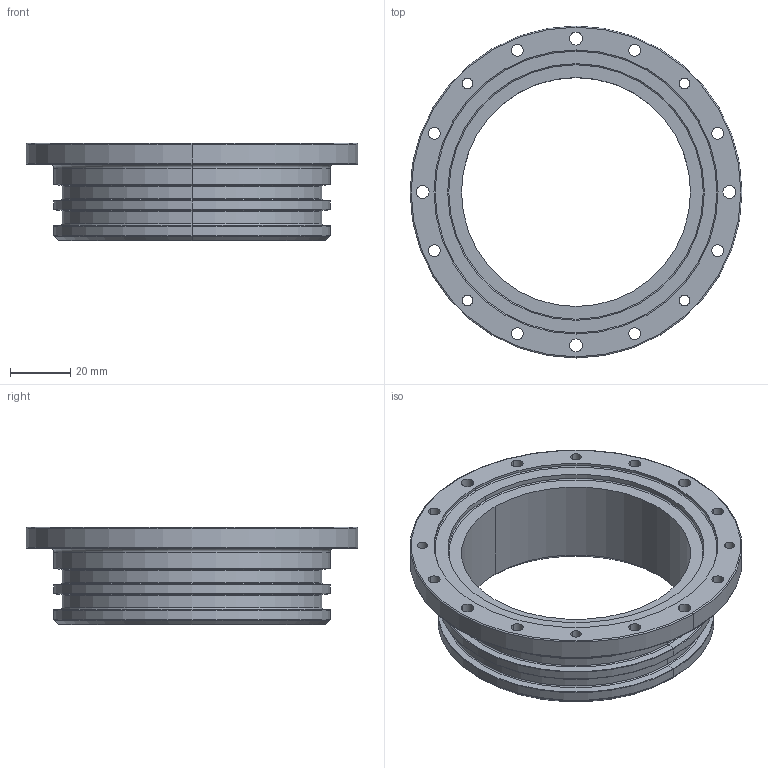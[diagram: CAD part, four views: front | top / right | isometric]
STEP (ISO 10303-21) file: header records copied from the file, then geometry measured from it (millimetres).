
FILE_DESCRIPTION (( 'STEP AP203' ), '1' );
FILE_NAME ('100221986 Housing A Viewport Endcap_B.STEP', '2023-09-06T20:24:28', ( '' ), ( '' ), 'SwSTEP 2.0', 'SolidWorks 2023', '' );
FILE_SCHEMA (( 'CONFIG_CONTROL_DESIGN' ));
Length unit declared in the file: inch
Products named in the file (1): 100221986 Housing A Viewport Endcap_B
Bounding box: 110.49 x 110.49 x 32.38 mm (x, y, z)
Volume: 72372.4 mm3; surface area: 30564.9 mm2
Topology: 1 solids, 1 shells, 119 faces, 270 edges, 164 vertices
Faces by surface type: cylinder 66, torus 28, plane 13, cone 12
Entity records: 3539 total; most frequent: DIRECTION 702, CARTESIAN_POINT 554, ORIENTED_EDGE 540, AXIS2_PLACEMENT_3D 312, EDGE_CURVE 270, CIRCLE 192, EDGE_LOOP 164, VERTEX_POINT 164
